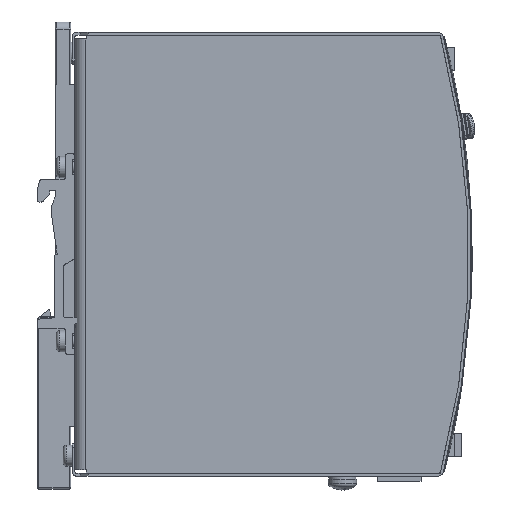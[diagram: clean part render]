
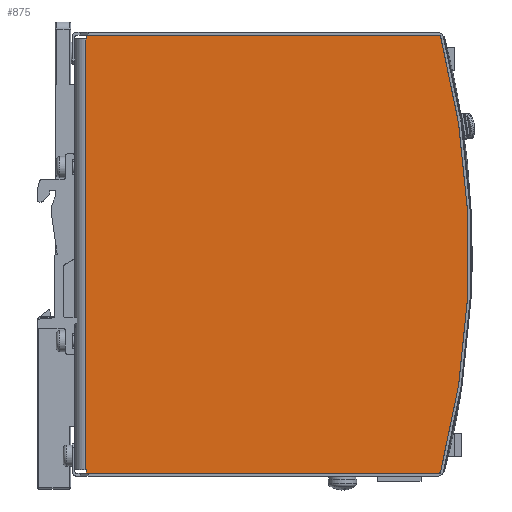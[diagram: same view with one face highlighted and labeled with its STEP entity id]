
A CAD part, front view. The second image highlights one B-rep face of the part: STEP entity #875.
In plain terms, the highlighted planar face has unit normal (0, -1, 0).
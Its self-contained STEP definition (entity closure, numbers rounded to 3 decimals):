
#154=CARTESIAN_POINT('',(3.,-20.,-60.15));
#155=VERTEX_POINT('',#154);
#229=CARTESIAN_POINT('',(3.1,-20.,-60.15));
#230=VERTEX_POINT('',#229);
#237=CARTESIAN_POINT('',(3.0,-20.,-60.15));
#238=DIRECTION('',(1.0,0.0,0.0));
#239=VECTOR('',#238,0.1);
#240=LINE('',#237,#239);
#241=EDGE_CURVE('',#155,#230,#240,.T.);
#259=CARTESIAN_POINT('',(3.1,-20.,-61.15));
#260=VERTEX_POINT('',#259);
#267=CARTESIAN_POINT('',(3.1,-20.,-60.15));
#268=DIRECTION('',(0.0,0.0,-1.0));
#269=VECTOR('',#268,1.0);
#270=LINE('',#267,#269);
#271=EDGE_CURVE('',#230,#260,#270,.T.);
#292=CARTESIAN_POINT('',(3.1,-20.,60.15));
#293=VERTEX_POINT('',#292);
#300=CARTESIAN_POINT('',(3.1,-20.,61.15));
#301=VERTEX_POINT('',#300);
#302=CARTESIAN_POINT('',(3.1,-20.,61.15));
#303=DIRECTION('',(0.0,0.0,-1.0));
#304=VECTOR('',#303,1.);
#305=LINE('',#302,#304);
#306=EDGE_CURVE('',#301,#293,#305,.T.);
#365=CARTESIAN_POINT('',(3.,-20.,60.15));
#366=VERTEX_POINT('',#365);
#374=CARTESIAN_POINT('',(3.1,-20.,60.15));
#375=DIRECTION('',(-1.0,0.0,0.0));
#376=VECTOR('',#375,0.1);
#377=LINE('',#374,#376);
#378=EDGE_CURVE('',#293,#366,#377,.T.);
#728=CARTESIAN_POINT('',(102.079,-20.,-61.15));
#729=VERTEX_POINT('',#728);
#736=CARTESIAN_POINT('',(102.079,-20.,-61.15));
#737=DIRECTION('',(-1.0,0.0,0.0));
#738=VECTOR('',#737,98.979);
#739=LINE('',#736,#738);
#740=EDGE_CURVE('',#729,#260,#739,.T.);
#824=CARTESIAN_POINT('',(102.079,-20.,61.15));
#825=VERTEX_POINT('',#824);
#826=CARTESIAN_POINT('',(102.079,-20.,61.15));
#827=DIRECTION('',(-1.0,0.0,0.0));
#828=VECTOR('',#827,98.979);
#829=LINE('',#826,#828);
#830=EDGE_CURVE('',#825,#301,#829,.T.);
#849=CARTESIAN_POINT('',(130.0,-20.,-61.15));
#850=DIRECTION('',(0.0,-1.0,0.0));
#851=DIRECTION('',(0.0,0.0,-1.0));
#852=AXIS2_PLACEMENT_3D('',#849,#850,#851);
#853=PLANE('',#852);
#854=ORIENTED_EDGE('',*,*,#241,.T.);
#855=ORIENTED_EDGE('',*,*,#271,.T.);
#856=ORIENTED_EDGE('',*,*,#740,.F.);
#857=CARTESIAN_POINT('',(-130.0,-20.,0.));
#858=DIRECTION('',(0.0,-1.0,0.0));
#859=DIRECTION('',(-0.967,0.0,-0.255));
#860=AXIS2_PLACEMENT_3D('',#857,#858,#859);
#861=CIRCLE('',#860,240.);
#862=EDGE_CURVE('',#729,#825,#861,.T.);
#863=ORIENTED_EDGE('',*,*,#862,.T.);
#864=ORIENTED_EDGE('',*,*,#830,.T.);
#865=ORIENTED_EDGE('',*,*,#306,.T.);
#866=ORIENTED_EDGE('',*,*,#378,.T.);
#867=CARTESIAN_POINT('',(3.,-20.,60.15));
#868=DIRECTION('',(0.0,0.0,-1.0));
#869=VECTOR('',#868,120.3);
#870=LINE('',#867,#869);
#871=EDGE_CURVE('',#366,#155,#870,.T.);
#872=ORIENTED_EDGE('',*,*,#871,.T.);
#873=EDGE_LOOP('',(#854,#855,#856,#863,#864,#865,#866,#872));
#874=FACE_OUTER_BOUND('',#873,.T.);
#875=ADVANCED_FACE('',(#874),#853,.T.);
